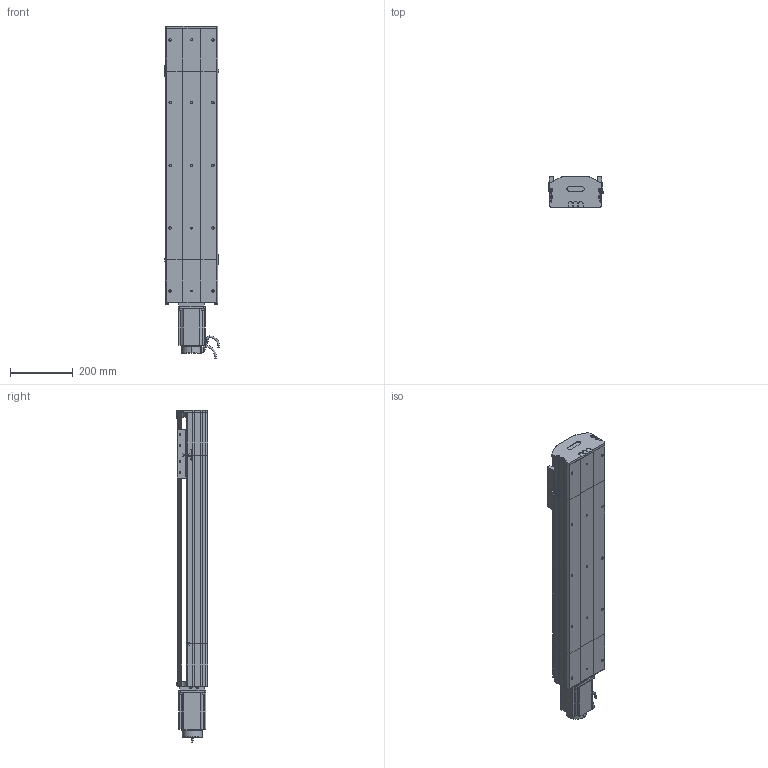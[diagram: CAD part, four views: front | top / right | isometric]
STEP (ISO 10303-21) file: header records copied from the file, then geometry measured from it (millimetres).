
FILE_DESCRIPTION (( 'STEP AP214' ), '1' );
FILE_NAME ('D17 TSH MD S600.STEP', '2010-06-29T14:54:14', ( 'Christophe Gaillard' ), ( 'SGA' ), 'SwSTEP 2.0', 'SolidWorks 2010', '' );
FILE_SCHEMA (( 'AUTOMOTIVE_DESIGN' ));
Length unit declared in the file: millimetre
Products named in the file (31): Moteur motionking 90BLDC125A-640; tete d''axe bas D17; couvercle D17 course L600_Default; Tail D17_Default; vis M5 L8 90°_Default; couvercle D17_Default; tete d''axe haut D17; Arbre+rail tail D17; corpl head D17 MD_Default; head MD_Default; plaque de  bout tail D17_Default; vis M5 L25_Default; corp D17 600_Default; plaque de  bout head D17_Default; couvercle D17 head_Default; Arbre+rail head D17; arbre + rail D17 Course 600 ; vis M5 L5_Default; corpl tail D17_Default; Vis M5 L16-2_Default; chariot D17S_Default; Conecteur2_Default; Chariot D17; Conecteur_Default; corps 90BLDC125A-640; codeur 90BLDC125-640; vis M5 L12_Default; avant 90BLDC125A-640; guide D17; course 600 D17_Default; D17  TSH MD S600
Assembly tree (50 placements, depth 4):
  D17  TSH MD S600
    head MD_Default
      corpl head D17 MD_Default
      Vis M5 L16-2_Default  x4
      vis M5 L12_Default  x6
      Moteur motionking 90BLDC125A-640
        Conecteur_Default
        Conecteur2_Default
        avant 90BLDC125A-640
        codeur 90BLDC125-640
        corps 90BLDC125A-640
      couvercle D17 head_Default
      vis M5 L5_Default  x2
      plaque de  bout head D17_Default
      Arbre+rail head D17
    course 600 D17_Default
      corp D17 600_Default
      arbre + rail D17 Course 600 
      couvercle D17 course L600_Default
    Tail D17_Default
      tete d''axe haut D17
      vis M5 L25_Default  x2
      tete d''axe bas D17
      vis M5 L12_Default  x4
      vis M5 L8 90°_Default  x2
      corpl tail D17_Default
      Arbre+rail tail D17
      plaque de  bout tail D17_Default
      couvercle D17_Default
    chariot D17S_Default
      guide D17  x2
      vis M5 L12_Default  x4
      Chariot D17
Bounding box: 174.95 x 99.7 x 1057.5 mm (x, y, z)
Volume: 6284948.7 mm3; surface area: 1569383.1 mm2
Topology: 75 solids, 75 shells, 2094 faces, 5293 edges, 3432 vertices
Faces by surface type: plane 1319, cylinder 526, bspline 136, torus 57, cone 56
Entity records: 70047 total; most frequent: CARTESIAN_POINT 22238, ORIENTED_EDGE 8402, DIRECTION 7782, EDGE_CURVE 4201, LINE 2958, VECTOR 2958, VERTEX_POINT 2768, AXIS2_PLACEMENT_3D 2412
